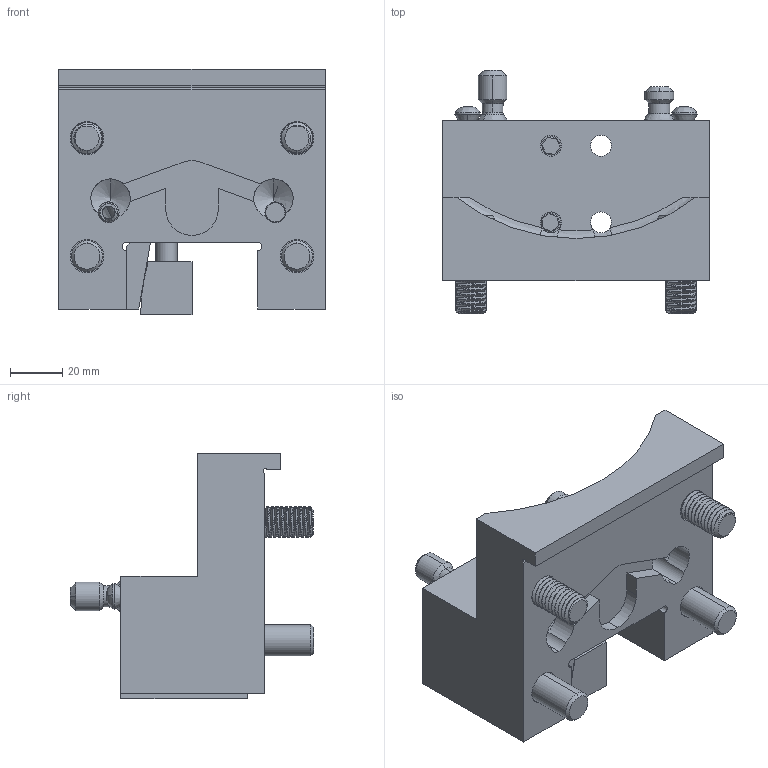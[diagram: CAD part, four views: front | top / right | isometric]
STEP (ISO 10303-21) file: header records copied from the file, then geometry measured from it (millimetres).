
FILE_DESCRIPTION (( 'STEP AP203' ), '1' );
FILE_NAME ('04-0764, BOT20MOD-25.STEP', '2022-07-18T22:20:02', ( '' ), ( '' ), 'SwSTEP 2.0', 'SolidWorks 2021', '' );
FILE_SCHEMA (( 'CONFIG_CONTROL_DESIGN' ));
Length unit declared in the file: inch
Products named in the file (1): 04-0764, BOT20MOD-25
Bounding box: 101.6 x 92.68 x 93.71 mm (x, y, z)
Surface area: 74316.9 mm2 (no closed solid volume)
Topology: 0 solids, 23 shells, 409 faces, 1131 edges, 734 vertices
Faces by surface type: cylinder 202, plane 109, cone 77, bspline 21
Entity records: 18405 total; most frequent: CARTESIAN_POINT 8758, ORIENTED_EDGE 2119, DIRECTION 1841, EDGE_CURVE 1123, VERTEX_POINT 734, AXIS2_PLACEMENT_3D 692, LINE 457, VECTOR 457
